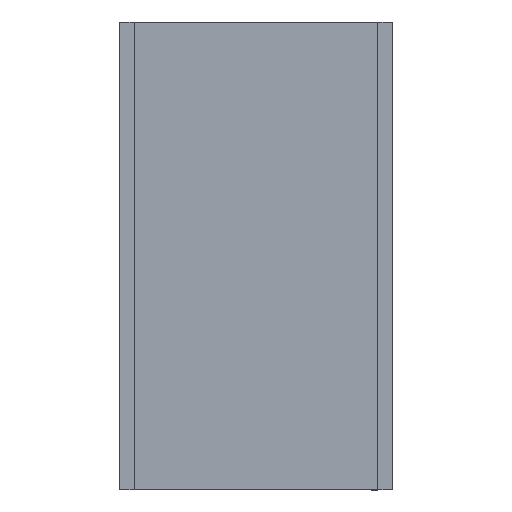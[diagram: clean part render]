
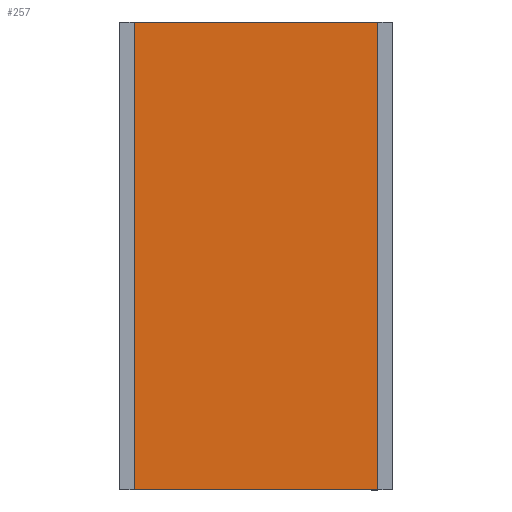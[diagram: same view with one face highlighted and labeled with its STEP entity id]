
A CAD part, front view. The second image highlights one B-rep face of the part: STEP entity #257.
In plain terms, the highlighted planar face has unit normal (0, -1, 0).
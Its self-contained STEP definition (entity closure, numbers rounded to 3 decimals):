
#64 = VECTOR ( 'NONE', #853, 1000. ) ;
#70 = CARTESIAN_POINT ( 'NONE',  ( 156., 0., -250. ) ) ;
#81 = FACE_OUTER_BOUND ( 'NONE', #437, .T. ) ;
#92 = CARTESIAN_POINT ( 'NONE',  ( 26., 0., -250. ) ) ;
#101 = DIRECTION ( 'NONE',  ( 0., 0., -1. ) ) ;
#103 = LINE ( 'NONE', #489, #802 ) ;
#122 = VERTEX_POINT ( 'NONE', #390 ) ;
#191 = VERTEX_POINT ( 'NONE', #1204 ) ;
#196 = VERTEX_POINT ( 'NONE', #92 ) ;
#228 = ORIENTED_EDGE ( 'NONE', *, *, #442, .F. ) ;
#239 = EDGE_CURVE ( 'NONE', #196, #191, #388, .T. ) ;
#257 = ADVANCED_FACE ( 'NONE', ( #81 ), #1195, .T. ) ;
#388 = LINE ( 'NONE', #1199, #496 ) ;
#390 = CARTESIAN_POINT ( 'NONE',  ( 156., 0., 0. ) ) ;
#404 = VECTOR ( 'NONE', #878, 1000. ) ;
#419 = EDGE_CURVE ( 'NONE', #196, #839, #103, .T. ) ;
#437 = EDGE_LOOP ( 'NONE', ( #727, #558, #626, #228 ) ) ;
#442 = EDGE_CURVE ( 'NONE', #191, #122, #679, .T. ) ;
#466 = CARTESIAN_POINT ( 'NONE',  ( 0., 0., -250. ) ) ;
#470 = CARTESIAN_POINT ( 'NONE',  ( 0., 0., 0. ) ) ;
#489 = CARTESIAN_POINT ( 'NONE',  ( 0., 0., -250. ) ) ;
#496 = VECTOR ( 'NONE', #1093, 1000. ) ;
#558 = ORIENTED_EDGE ( 'NONE', *, *, #419, .T. ) ;
#626 = ORIENTED_EDGE ( 'NONE', *, *, #1090, .T. ) ;
#679 = LINE ( 'NONE', #470, #404 ) ;
#727 = ORIENTED_EDGE ( 'NONE', *, *, #239, .F. ) ;
#802 = VECTOR ( 'NONE', #1173, 1000. ) ;
#839 = VERTEX_POINT ( 'NONE', #916 ) ;
#853 = DIRECTION ( 'NONE',  ( 0., 0., 1. ) ) ;
#878 = DIRECTION ( 'NONE',  ( 1., 0., 0. ) ) ;
#916 = CARTESIAN_POINT ( 'NONE',  ( 156., 0., -250. ) ) ;
#951 = LINE ( 'NONE', #70, #64 ) ;
#1088 = DIRECTION ( 'NONE',  ( 0., -1., 0. ) ) ;
#1090 = EDGE_CURVE ( 'NONE', #839, #122, #951, .T. ) ;
#1093 = DIRECTION ( 'NONE',  ( 0., 0., 1. ) ) ;
#1173 = DIRECTION ( 'NONE',  ( 1., 0., 0. ) ) ;
#1195 = PLANE ( 'NONE',  #1249 ) ;
#1199 = CARTESIAN_POINT ( 'NONE',  ( 26., 0., -250. ) ) ;
#1204 = CARTESIAN_POINT ( 'NONE',  ( 26., 0., 0. ) ) ;
#1249 = AXIS2_PLACEMENT_3D ( 'NONE', #466, #1088, #101 ) ;
